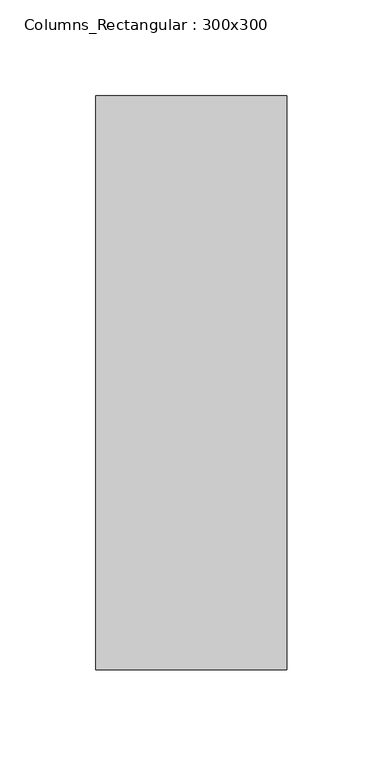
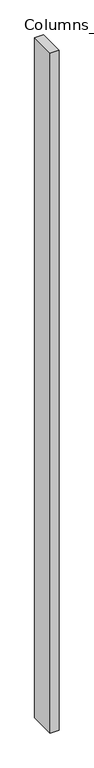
"""IFC4 building model written with IfcOpenShell, lengths in millimetres: column geometry, Columns_Rectangular : 300x300."""

from ifc_helpers import new_model, si_unit, frame, origin, place, context, project, spatial, polyline, outline, extrude, source, transform, mapped, element, save


def columns_rectangular_300x300_73db2975(model_context):
    return source(origin(), model_context, "Body", "SweptSolid", [
        extrude(outline(polyline([(50.0, 150.0), (50.0, -150.0), (-50.0, -150.0), (-50.0, 150.0), (50.0, 150.0)])), frame((0.0, 0.0, 5800.0), z_axis=(0.0, 0.0, 1.0), x_axis=(1.0, 0.0, 0.0)), (0.0, 0.0, 1.0), 8000.0),
    ])


if __name__ == "__main__":
    model = new_model("IFC4")
    model_context = context("Model", 3, world=origin())
    ifc_project = project(units=[si_unit("LENGTHUNIT", "METRE", prefix="MILLI")], contexts=[model_context])
    site = spatial("IfcSite", under=ifc_project)
    building = spatial("IfcBuilding", under=site)
    placement = place(None, origin())
    columns_rectangular_300x300_shape = columns_rectangular_300x300_73db2975(model_context)
    element("IfcColumn", 1, ObjectType="Columns_Rectangular : 300x300", at=placement, inside=building, context=model_context, shape_type="MappedRepresentation", body=[
        mapped(columns_rectangular_300x300_shape, transform((0.0, 0.0, 0.0), x_axis=(1.0, 0.0, 0.0), y_axis=(0.0, 1.0, 0.0), z_axis=(0.0, 0.0, 1.0))),
    ])
    save(model, "model.ifc")
